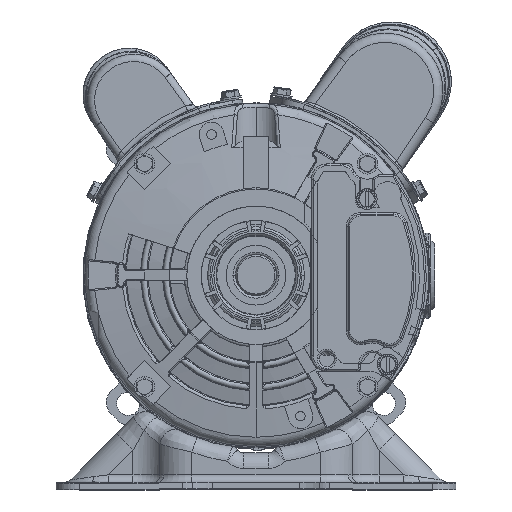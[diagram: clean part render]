
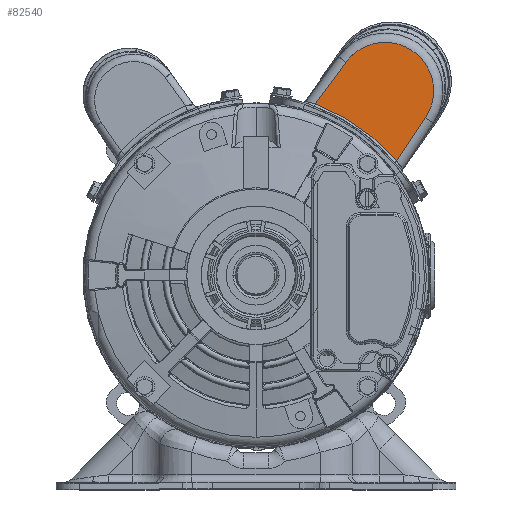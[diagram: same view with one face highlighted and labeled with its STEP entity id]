
A CAD part, top view. The second image highlights one B-rep face of the part: STEP entity #82540.
In plain terms, the highlighted planar face has unit normal (0, 0, 1).
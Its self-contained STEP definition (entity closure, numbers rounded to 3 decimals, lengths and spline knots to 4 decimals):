
#868 = CARTESIAN_POINT ( 'NONE',  ( 1.4628, 3.4653, 9.7466 ) ) ;
#9169 = PLANE ( 'NONE',  #47190 ) ;
#13551 = VERTEX_POINT ( 'NONE', #81528 ) ;
#15206 = CARTESIAN_POINT ( 'NONE',  ( 0.8964, 2.6942, 9.7466 ) ) ;
#15919 = EDGE_CURVE ( 'NONE', #66359, #94906, #24889, .T. ) ;
#21896 = CARTESIAN_POINT ( 'NONE',  ( 2.0992, 2.9979, 9.7466 ) ) ;
#24889 = LINE ( 'NONE', #15206, #77085 ) ;
#27934 = VECTOR ( 'NONE', #120892, 39.3701 ) ;
#28199 = VERTEX_POINT ( 'NONE', #46020 ) ;
#34148 = DIRECTION ( 'NONE',  ( 0., 0., 1. ) ) ;
#35847 = EDGE_CURVE ( 'NONE', #13551, #66359, #85096, .T. ) ;
#44892 = CARTESIAN_POINT ( 'NONE',  ( -0.2181, -0.3114, 9.7466 ) ) ;
#46020 = CARTESIAN_POINT ( 'NONE',  ( 2.2893, 1.8601, 9.7466 ) ) ;
#47190 = AXIS2_PLACEMENT_3D ( 'NONE', #63258, #119120, #141481 ) ;
#49372 = CIRCLE ( 'NONE', #72711, 3.317 ) ;
#53999 = LINE ( 'NONE', #119930, #27934 ) ;
#54993 = DIRECTION ( 'NONE',  ( 0.819, -0.574, 0. ) ) ;
#60940 = DIRECTION ( 'NONE',  ( -0.592, -0.806, 0. ) ) ;
#63258 = CARTESIAN_POINT ( 'NONE',  ( -0.2181, -0.3114, 9.7466 ) ) ;
#66359 = VERTEX_POINT ( 'NONE', #868 ) ;
#67578 = FACE_OUTER_BOUND ( 'NONE', #69042, .T. ) ;
#69042 = EDGE_LOOP ( 'NONE', ( #134566, #69167, #93110, #96096 ) ) ;
#69167 = ORIENTED_EDGE ( 'NONE', *, *, #77346, .T. ) ;
#72711 = AXIS2_PLACEMENT_3D ( 'NONE', #44892, #91586, #102738 ) ;
#75983 = CARTESIAN_POINT ( 'NONE',  ( 0.9649, 2.7874, 9.7466 ) ) ;
#77085 = VECTOR ( 'NONE', #60940, 39.3701 ) ;
#77346 = EDGE_CURVE ( 'NONE', #94906, #28199, #49372, .T. ) ;
#81154 = EDGE_CURVE ( 'NONE', #28199, #13551, #53999, .T. ) ;
#81528 = CARTESIAN_POINT ( 'NONE',  ( 2.7561, 2.5598, 9.7466 ) ) ;
#82540 = ADVANCED_FACE ( 'NONE', ( #67578 ), #9169, .T. ) ;
#85096 = CIRCLE ( 'NONE', #99751, 0.7896 ) ;
#91586 = DIRECTION ( 'NONE',  ( 0., 0., -1. ) ) ;
#93110 = ORIENTED_EDGE ( 'NONE', *, *, #81154, .T. ) ;
#94906 = VERTEX_POINT ( 'NONE', #75983 ) ;
#96096 = ORIENTED_EDGE ( 'NONE', *, *, #35847, .T. ) ;
#99751 = AXIS2_PLACEMENT_3D ( 'NONE', #21896, #34148, #54993 ) ;
#102738 = DIRECTION ( 'NONE',  ( 0.819, -0.574, 0. ) ) ;
#119120 = DIRECTION ( 'NONE',  ( 0., 0., 1. ) ) ;
#119930 = CARTESIAN_POINT ( 'NONE',  ( 2.7561, 2.5598, 9.7466 ) ) ;
#120892 = DIRECTION ( 'NONE',  ( 0.555, 0.832, 0. ) ) ;
#134566 = ORIENTED_EDGE ( 'NONE', *, *, #15919, .T. ) ;
#141481 = DIRECTION ( 'NONE',  ( 0.819, -0.574, 0. ) ) ;
